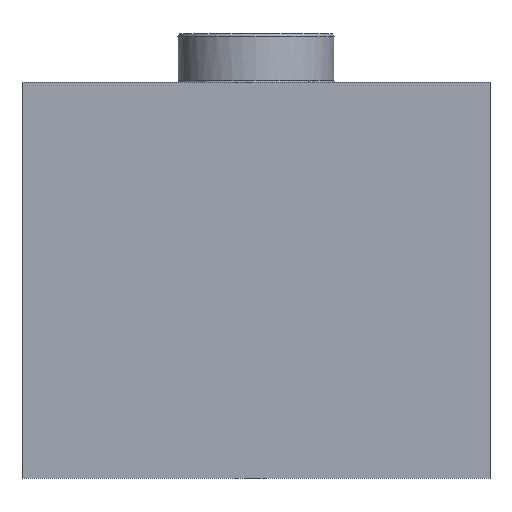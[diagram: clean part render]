
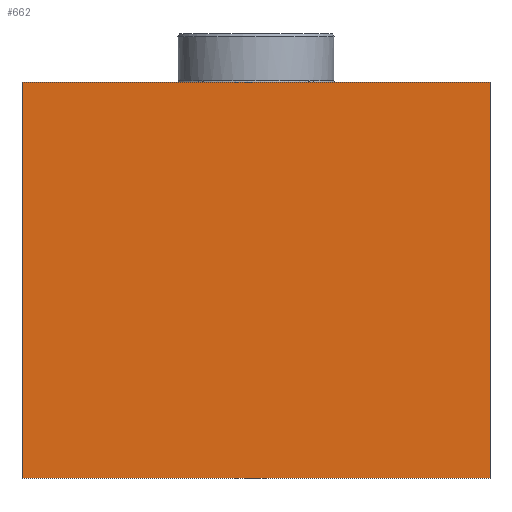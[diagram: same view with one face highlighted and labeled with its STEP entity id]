
A CAD part, front view. The second image highlights one B-rep face of the part: STEP entity #662.
In plain terms, the highlighted planar face has unit normal (0, -1, 0).
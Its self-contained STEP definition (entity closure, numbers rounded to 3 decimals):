
#662=ADVANCED_FACE('',(#1609),#1610,.T.);
#1609=FACE_OUTER_BOUND('',#3064,.T.);
#1610=PLANE('',#3065);
#3064=EDGE_LOOP('',(#5487,#5488,#5489,#5490));
#3065=AXIS2_PLACEMENT_3D('',#5491,#5492,#5493);
#5487=ORIENTED_EDGE('',*,*,#8364,.F.);
#5488=ORIENTED_EDGE('',*,*,#8365,.F.);
#5489=ORIENTED_EDGE('',*,*,#8366,.T.);
#5490=ORIENTED_EDGE('',*,*,#8367,.T.);
#5491=CARTESIAN_POINT('',(-150.0,-150.0,-285.0));
#5492=DIRECTION('',(0.0,-1.0,0.0));
#5493=DIRECTION('',(-1.0,0.0,0.0));
#8364=EDGE_CURVE('',#9705,#9706,#9707,.T.);
#8365=EDGE_CURVE('',#9708,#9705,#9709,.T.);
#8366=EDGE_CURVE('',#9708,#9710,#9711,.T.);
#8367=EDGE_CURVE('',#9710,#9706,#9712,.T.);
#9705=VERTEX_POINT('',#11977);
#9706=VERTEX_POINT('',#11978);
#9707=LINE('',#11979,#11980);
#9708=VERTEX_POINT('',#11981);
#9709=LINE('',#11982,#11983);
#9710=VERTEX_POINT('',#11984);
#9711=LINE('',#11985,#11986);
#9712=LINE('',#11987,#11988);
#11977=CARTESIAN_POINT('',(-150.0,-150.0,-31.0));
#11978=CARTESIAN_POINT('',(150.0,-150.0,-31.0));
#11979=CARTESIAN_POINT('',(-150.0,-150.0,-31.0));
#11980=VECTOR('',#15420,1.0);
#11981=CARTESIAN_POINT('',(-150.0,-150.0,-285.0));
#11982=CARTESIAN_POINT('',(-150.0,-150.0,-285.0));
#11983=VECTOR('',#15421,1.0);
#11984=CARTESIAN_POINT('',(150.0,-150.0,-285.0));
#11985=CARTESIAN_POINT('',(-150.0,-150.0,-285.0));
#11986=VECTOR('',#15422,1.0);
#11987=CARTESIAN_POINT('',(150.0,-150.0,-285.0));
#11988=VECTOR('',#15423,1.0);
#15420=DIRECTION('',(1.0,0.0,0.0));
#15421=DIRECTION('',(0.0,0.0,1.0));
#15422=DIRECTION('',(1.0,0.0,0.0));
#15423=DIRECTION('',(0.0,0.0,1.0));
